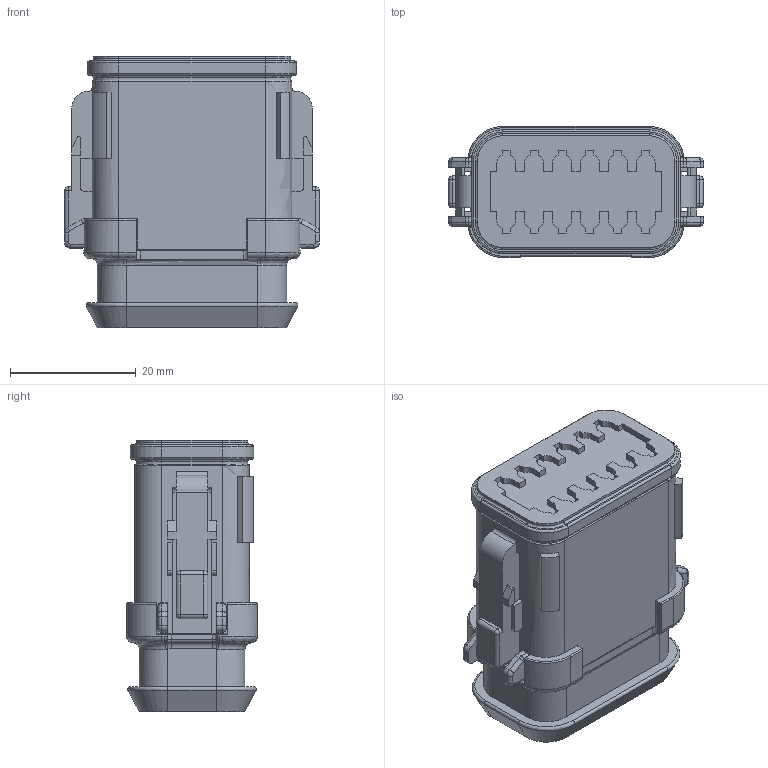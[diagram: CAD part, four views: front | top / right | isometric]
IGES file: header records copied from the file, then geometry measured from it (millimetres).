
Start section:  PTC IGES file: c-dt06-12sa-e008-99-3d.igs
Global section: file name: c-dt06-12sa-e008-99-3d.igs; native system: Pro/ENGINEER by Parametric Technology Corporation; preprocessor: 2011490; author: workeradm; organization: Unknown; units: millimetre
Bounding box: 40.56 x 20.83 x 43.21 mm (x, y, z)
Surface area: 8673.5 mm2 (no closed solid volume)
Topology: 0 solids, 0 shells, 741 faces, 3786 edges, 3786 vertices
Faces by surface type: bspline 385, revolution 356
